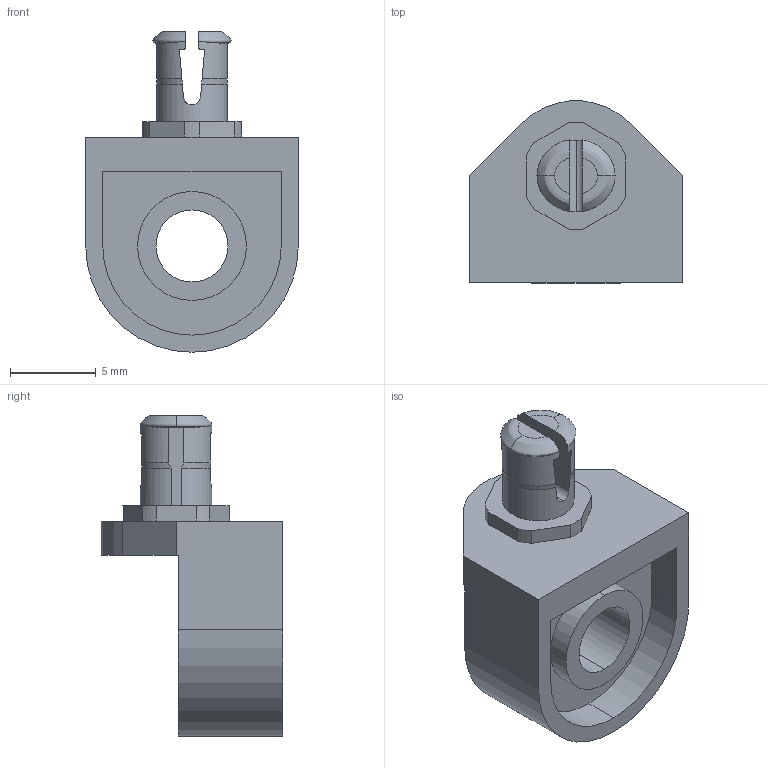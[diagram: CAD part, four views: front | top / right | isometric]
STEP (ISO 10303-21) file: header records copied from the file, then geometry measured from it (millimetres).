
FILE_DESCRIPTION (( 'STEP AP214' ), '1' );
FILE_NAME ('228-2500-2288.STEP', '2021-02-18T20:39:11', ( '' ), ( '' ), 'SwSTEP 2.0', 'SolidWorks 2019', '' );
FILE_SCHEMA (( 'AUTOMOTIVE_DESIGN' ));
Length unit declared in the file: millimetre
Products named in the file (1): 228-2500-2288
Bounding box: 12.4 x 10.59 x 18.69 mm (x, y, z)
Volume: 657.6 mm3; surface area: 970 mm2
Topology: 1 solids, 1 shells, 79 faces, 210 edges, 138 vertices
Faces by surface type: plane 36, cylinder 31, bspline 8, cone 4
Entity records: 7454 total; most frequent: CARTESIAN_POINT 5534, ORIENTED_EDGE 420, DIRECTION 358, EDGE_CURVE 210, VERTEX_POINT 138, AXIS2_PLACEMENT_3D 128, LINE 102, VECTOR 102
